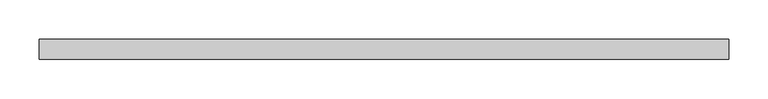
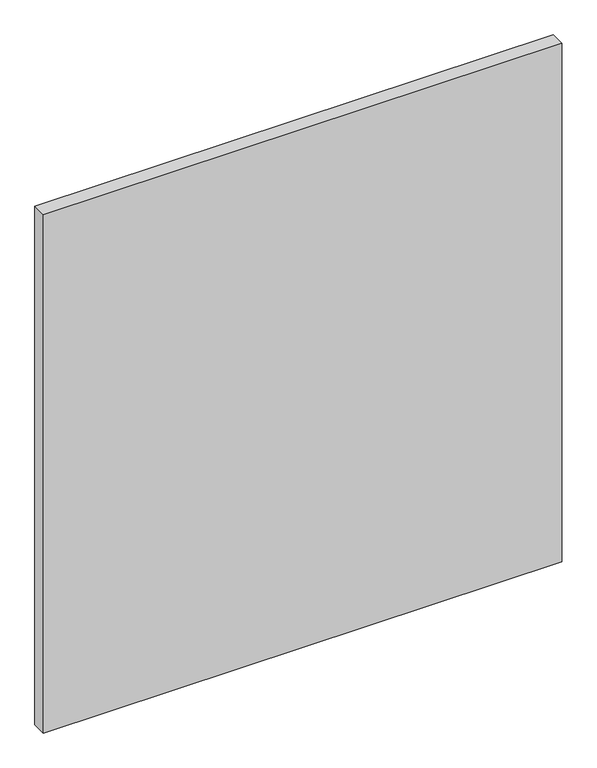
"""IFC4 building model written with IfcOpenShell, lengths in millimetres: plate geometry, Системная панель : ADSK_Cтеклопакет_25."""

from ifc_helpers import new_model, si_unit, origin, origin_with_axes, place, context, project, spatial, polyline, outline, extrude, source, transform, mapped, element, save


def plate_7c7baba4(model_context):
    return source(origin(), model_context, "Body", "SweptSolid", [
        extrude(outline(polyline([(437.5, -12.5), (-437.5, -12.5), (-437.5, 12.5), (437.5, 12.5), (437.5, -12.5)])), origin_with_axes(), (0.0, 0.0, 1.0), 925.0),
    ])


if __name__ == "__main__":
    model = new_model("IFC4")
    model_context = context("Model", 3, world=origin())
    ifc_project = project(units=[si_unit("LENGTHUNIT", "METRE", prefix="MILLI")], contexts=[model_context])
    site = spatial("IfcSite", under=ifc_project)
    building = spatial("IfcBuilding", under=site)
    placement = place(None, origin())
    plate_shape = plate_7c7baba4(model_context)
    element("IfcPlate", 1, ObjectType="Системная панель : ADSK_Cтеклопакет_25", at=placement, inside=building, context=model_context, shape_type="MappedRepresentation", body=[
        mapped(plate_shape, transform((0.0, 0.0, 0.0), x_axis=(1.0, 0.0, 0.0), y_axis=(0.0, 1.0, 0.0), z_axis=(0.0, 0.0, 1.0))),
    ])
    save(model, "model.ifc")
